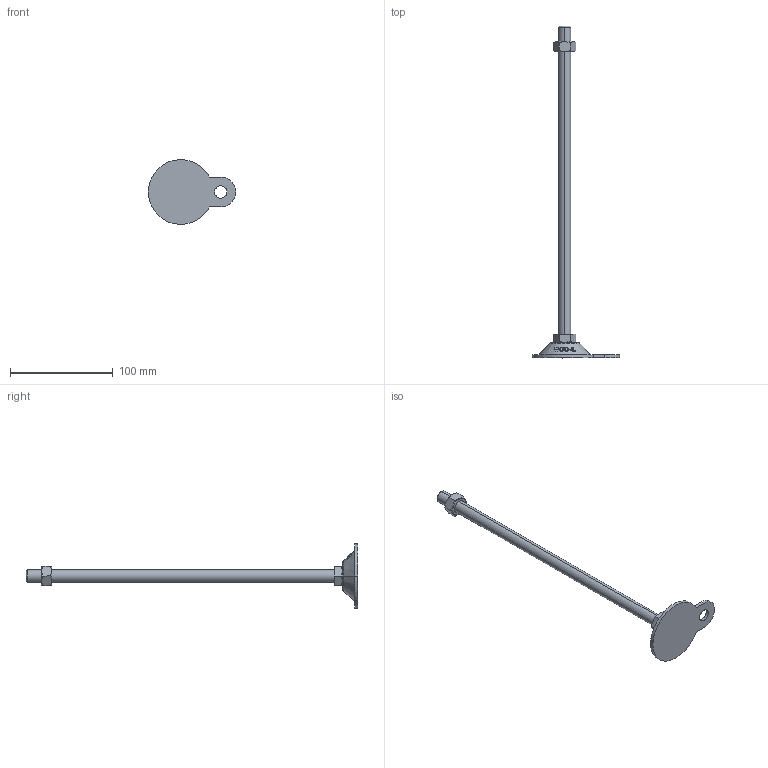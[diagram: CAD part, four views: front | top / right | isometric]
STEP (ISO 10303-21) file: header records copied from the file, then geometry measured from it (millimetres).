
FILE_DESCRIPTION (( 'STEP AP214' ), '1' );
FILE_NAME ('ABL63-M12-300.step', '2021-02-05T04:19:21', ( '' ), ( '' ), 'SwSTEP 2.0', 'SolidWorks 2019', '' );
FILE_SCHEMA (( 'AUTOMOTIVE_DESIGN' ));
Length unit declared in the file: millimetre
Products named in the file (2): ABL63-M12-300
Bounding box: 85 x 323 x 62.83 mm (x, y, z)
Volume: 63753.3 mm3; surface area: 21968.7 mm2
Topology: 2 solids, 2 shells, 128 faces, 325 edges, 212 vertices
Faces by surface type: plane 48, cylinder 38, cone 22, bspline 18, torus 2
Entity records: 5459 total; most frequent: CARTESIAN_POINT 2573, ORIENTED_EDGE 650, DIRECTION 473, EDGE_CURVE 325, VERTEX_POINT 212, AXIS2_PLACEMENT_3D 176, EDGE_LOOP 143, B_SPLINE_CURVE_WITH_KNOTS 140
